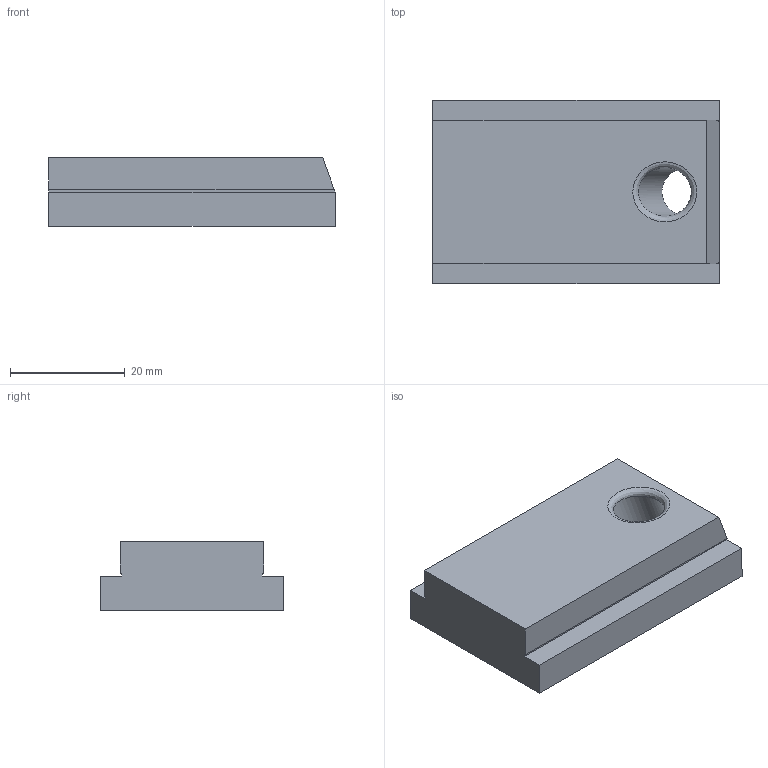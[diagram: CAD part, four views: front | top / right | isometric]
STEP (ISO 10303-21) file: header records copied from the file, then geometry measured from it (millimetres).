
FILE_DESCRIPTION (( 'STEP AP214' ), '1' );
FILE_NAME ('Schieber_-_H12 B25 L50.step', '2024-01-15T11:26:41', ( '' ), ( '' ), 'SwSTEP 2.0', 'SolidWorks 2020', '' );
FILE_SCHEMA (( 'AUTOMOTIVE_DESIGN' ));
Length unit declared in the file: millimetre
Products named in the file (1): Schieber_-_H12 B25 L50
Bounding box: 50 x 32 x 12 mm (x, y, z)
Volume: 16190.8 mm3; surface area: 5292.7 mm2
Topology: 1 solids, 1 shells, 202 faces, 543 edges, 361 vertices
Faces by surface type: plane 113, bspline 88, cylinder 1
Full cylindrical faces by diameter (mm): 8.5 x1
Entity records: 10875 total; most frequent: CARTESIAN_POINT 6391, ORIENTED_EDGE 1082, DIRECTION 594, EDGE_CURVE 541, VECTOR 364, LINE 364, VERTEX_POINT 361, EDGE_LOOP 224
